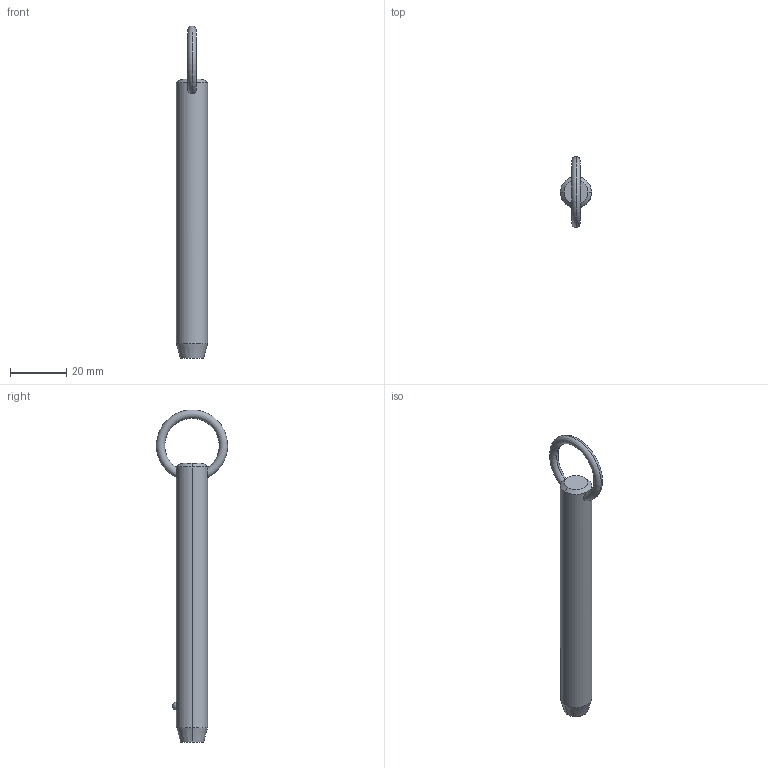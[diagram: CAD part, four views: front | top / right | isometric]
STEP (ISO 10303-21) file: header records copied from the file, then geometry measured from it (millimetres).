
FILE_DESCRIPTION (( 'STEP AP203' ), '1' );
FILE_NAME ('P1250.050-310.step', '2019-07-29T20:33:57', ( '' ), ( '' ), 'SwSTEP 2.0', 'SolidWorks 2017', '' );
FILE_SCHEMA (( 'CONFIG_CONTROL_DESIGN' ));
Length unit declared in the file: millimetre
Products named in the file (1): P1250.050-310
Bounding box: 11.1 x 25.32 x 118.25 mm (x, y, z)
Volume: 9891.9 mm3; surface area: 4115.4 mm2
Topology: 1 solids, 1 shells, 12 faces, 28 edges, 17 vertices
Faces by surface type: cone 4, torus 2, sphere 2, cylinder 2, plane 2
Entity records: 523 total; most frequent: CARTESIAN_POINT 190, DIRECTION 56, ORIENTED_EDGE 48, AXIS2_PLACEMENT_3D 25, EDGE_CURVE 24, EDGE_LOOP 15, VERTEX_POINT 15, FACE_OUTER_BOUND 12
